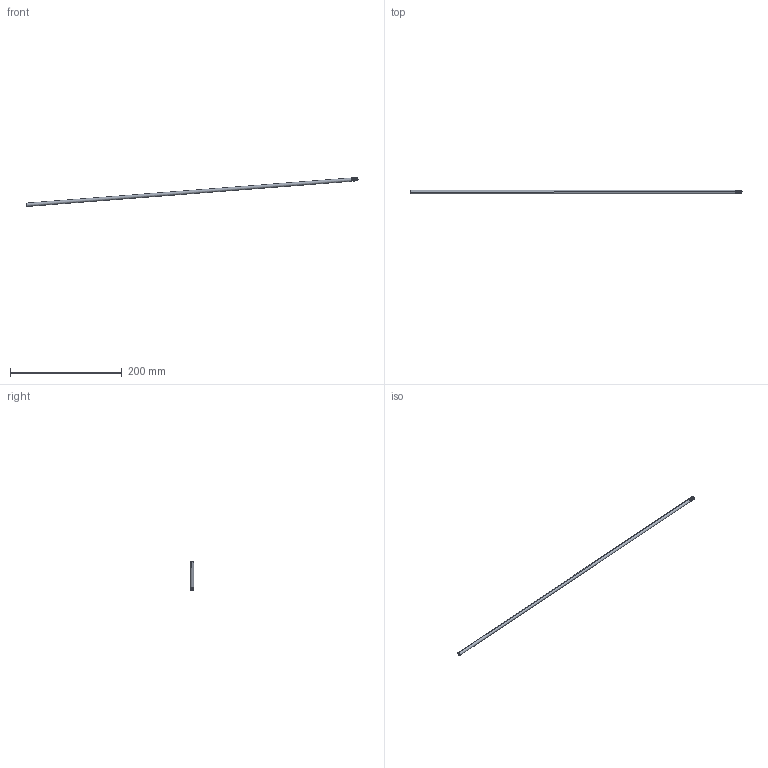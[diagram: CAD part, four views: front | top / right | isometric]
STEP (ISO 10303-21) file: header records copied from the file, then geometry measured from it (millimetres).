
FILE_DESCRIPTION((''),'2;1');
FILE_NAME('0000237293_PRT','2025-11-12T18:36:47',('Wyndorps'),(''),'CREO PARAMETRIC BY PTC INC, 2025010','CREO PARAMETRIC BY PTC INC, 2025010','');
FILE_SCHEMA(('CONFIG_CONTROL_DESIGN'));
Length unit declared in the file: millimetre
Products named in the file (1): 0000237293_PRT
Bounding box: 595.43 x 6 x 51.92 mm (x, y, z)
Volume: 16723 mm3; surface area: 11487.9 mm2
Topology: 1 solids, 2 shells, 44 faces, 108 edges, 67 vertices
Faces by surface type: cylinder 23, bspline 9, cone 6, plane 4, torus 2
Entity records: 6020 total; most frequent: CARTESIAN_POINT 5049, ORIENTED_EDGE 208, DIRECTION 156, EDGE_CURVE 106, VERTEX_POINT 67, AXIS2_PLACEMENT_3D 62, B_SPLINE_CURVE_WITH_KNOTS 48, EDGE_LOOP 47
